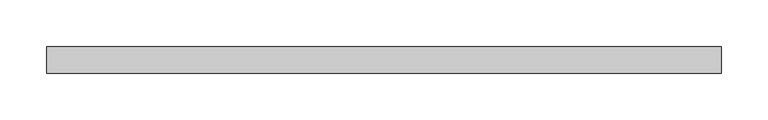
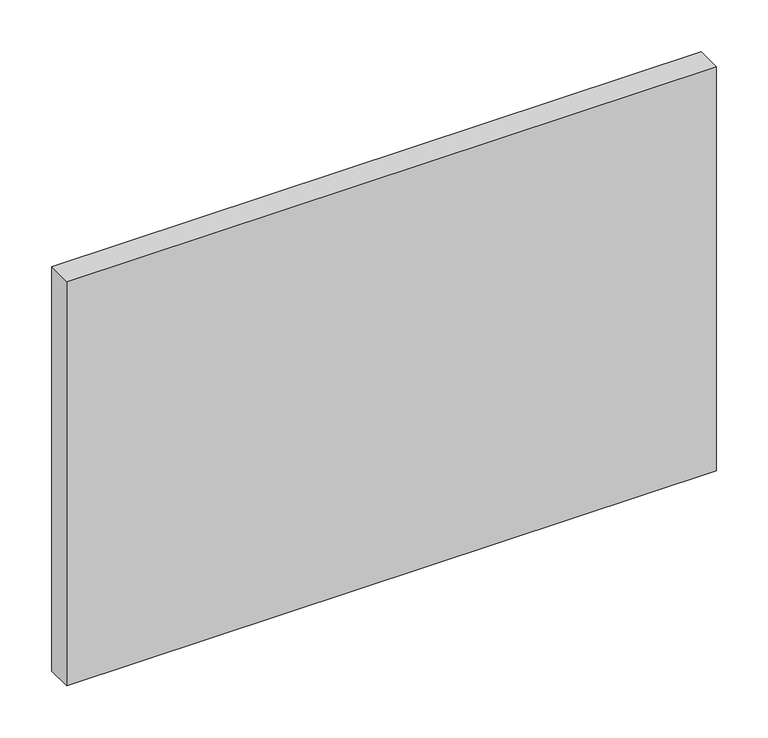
"""IFC4 building model written with IfcOpenShell, lengths in millimetres: proxy geometry, BASYS^OFFICE 7_LEGAL BF-WORKSURFACE."""

from ifc_helpers import new_model, si_unit, frame, origin, place, context, project, spatial, polyline, outline, extrude, source, transform, mapped, element, save


def generic_models_45839ae2(model_context):
    return source(origin(), model_context, "Body", "SweptSolid", [
        extrude(outline(polyline([(723.9, 0.0), (0.0, 0.0), (0.0, 28.575), (723.9, 28.575), (723.9, 0.0)])), frame((0.0, 0.0, -476.25), z_axis=(0.0, 0.0, 1.0), x_axis=(1.0, 0.0, 0.0)), (0.0, 0.0, 1.0), 476.25),
    ])


if __name__ == "__main__":
    model = new_model("IFC4")
    model_context = context("Model", 3, world=origin())
    ifc_project = project(units=[si_unit("LENGTHUNIT", "METRE", prefix="MILLI")], contexts=[model_context])
    site = spatial("IfcSite", under=ifc_project)
    building = spatial("IfcBuilding", under=site)
    placement = place(None, origin())
    generic_models_shape = generic_models_45839ae2(model_context)
    element("IfcBuildingElementProxy", 1, Name="BASYS^OFFICE 7_LEGAL BF-WORKSURFACE", ObjectType="BASYS^OFFICE 7_LEGAL BF-WORKSURFACE", at=placement, inside=building, context=model_context, shape_type="MappedRepresentation", body=[
        mapped(generic_models_shape, transform((0.0, 0.0, 0.0), x_axis=(1.0, 0.0, 0.0), y_axis=(0.0, 1.0, 0.0), z_axis=(0.0, 0.0, 1.0))),
    ])
    save(model, "model.ifc")
